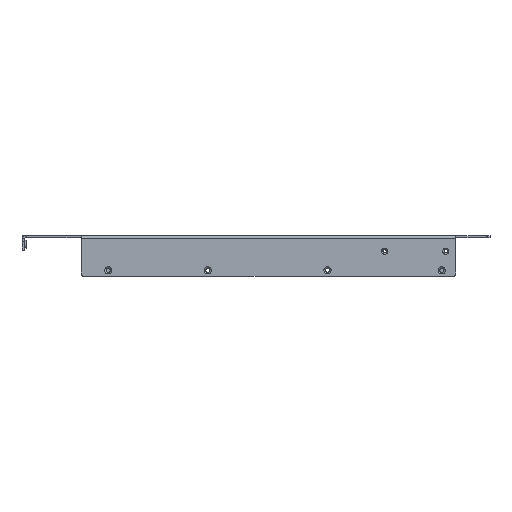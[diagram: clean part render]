
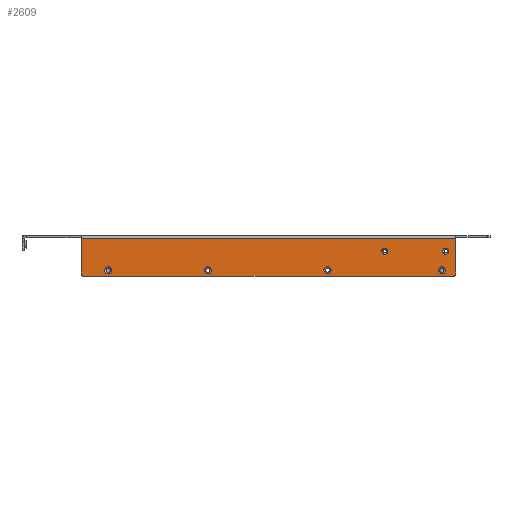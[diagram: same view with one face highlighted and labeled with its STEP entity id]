
A CAD part, front view. The second image highlights one B-rep face of the part: STEP entity #2609.
In plain terms, the highlighted planar face has unit normal (0, -1, 0).
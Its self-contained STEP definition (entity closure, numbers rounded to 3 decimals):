
#251=FACE_BOUND('',#659,.T.);
#252=FACE_BOUND('',#660,.T.);
#253=FACE_BOUND('',#661,.T.);
#254=FACE_BOUND('',#662,.T.);
#255=FACE_BOUND('',#663,.T.);
#256=FACE_BOUND('',#664,.T.);
#301=PLANE('',#2871);
#484=FACE_OUTER_BOUND('',#658,.T.);
#658=EDGE_LOOP('',(#2330,#2331,#2332,#2333,#2334,#2335));
#659=EDGE_LOOP('',(#2336));
#660=EDGE_LOOP('',(#2337));
#661=EDGE_LOOP('',(#2338));
#662=EDGE_LOOP('',(#2339));
#663=EDGE_LOOP('',(#2340));
#664=EDGE_LOOP('',(#2341));
#865=LINE('',#4162,#1083);
#871=LINE('',#4190,#1089);
#896=LINE('',#4283,#1114);
#897=LINE('',#4287,#1115);
#1083=VECTOR('',#3369,10.);
#1089=VECTOR('',#3397,10.);
#1114=VECTOR('',#3518,10.);
#1115=VECTOR('',#3525,10.);
#1211=CIRCLE('',#2802,2.);
#1220=CIRCLE('',#2814,2.);
#1225=CIRCLE('',#2825,2.6);
#1226=CIRCLE('',#2827,2.6);
#1235=CIRCLE('',#2845,2.95);
#1236=CIRCLE('',#2847,2.95);
#1237=CIRCLE('',#2849,2.95);
#1238=CIRCLE('',#2851,2.95);
#1433=VERTEX_POINT('',#4149);
#1434=VERTEX_POINT('',#4150);
#1438=VERTEX_POINT('',#4160);
#1448=VERTEX_POINT('',#4184);
#1449=VERTEX_POINT('',#4188);
#1454=VERTEX_POINT('',#4208);
#1455=VERTEX_POINT('',#4212);
#1464=VERTEX_POINT('',#4248);
#1465=VERTEX_POINT('',#4252);
#1466=VERTEX_POINT('',#4256);
#1467=VERTEX_POINT('',#4260);
#1469=VERTEX_POINT('',#4282);
#1700=EDGE_CURVE('',#1433,#1434,#1211,.T.);
#1706=EDGE_CURVE('',#1438,#1433,#865,.T.);
#1717=EDGE_CURVE('',#1448,#1438,#1220,.T.);
#1720=EDGE_CURVE('',#1449,#1448,#871,.T.);
#1729=EDGE_CURVE('',#1454,#1454,#1225,.T.);
#1731=EDGE_CURVE('',#1455,#1455,#1226,.T.);
#1749=EDGE_CURVE('',#1464,#1464,#1235,.T.);
#1751=EDGE_CURVE('',#1465,#1465,#1236,.T.);
#1753=EDGE_CURVE('',#1466,#1466,#1237,.T.);
#1755=EDGE_CURVE('',#1467,#1467,#1238,.T.);
#1767=EDGE_CURVE('',#1449,#1469,#896,.T.);
#1770=EDGE_CURVE('',#1434,#1469,#897,.T.);
#2330=ORIENTED_EDGE('',*,*,#1700,.F.);
#2331=ORIENTED_EDGE('',*,*,#1706,.F.);
#2332=ORIENTED_EDGE('',*,*,#1717,.F.);
#2333=ORIENTED_EDGE('',*,*,#1720,.F.);
#2334=ORIENTED_EDGE('',*,*,#1767,.T.);
#2335=ORIENTED_EDGE('',*,*,#1770,.F.);
#2336=ORIENTED_EDGE('',*,*,#1729,.T.);
#2337=ORIENTED_EDGE('',*,*,#1731,.T.);
#2338=ORIENTED_EDGE('',*,*,#1749,.T.);
#2339=ORIENTED_EDGE('',*,*,#1751,.T.);
#2340=ORIENTED_EDGE('',*,*,#1753,.T.);
#2341=ORIENTED_EDGE('',*,*,#1755,.T.);
#2609=ADVANCED_FACE('',(#484,#251,#252,#253,#254,#255,#256),#301,.T.);
#2802=AXIS2_PLACEMENT_3D('',#4151,#3359,#3360);
#2814=AXIS2_PLACEMENT_3D('',#4185,#3391,#3392);
#2825=AXIS2_PLACEMENT_3D('',#4209,#3420,#3421);
#2827=AXIS2_PLACEMENT_3D('',#4213,#3425,#3426);
#2845=AXIS2_PLACEMENT_3D('',#4249,#3470,#3471);
#2847=AXIS2_PLACEMENT_3D('',#4253,#3475,#3476);
#2849=AXIS2_PLACEMENT_3D('',#4257,#3480,#3481);
#2851=AXIS2_PLACEMENT_3D('',#4261,#3485,#3486);
#2871=AXIS2_PLACEMENT_3D('',#4295,#3537,#3538);
#3359=DIRECTION('center_axis',(0.,1.,0.));
#3360=DIRECTION('ref_axis',(-0.707,0.,-0.707));
#3369=DIRECTION('',(-1.,0.,0.));
#3391=DIRECTION('center_axis',(0.,1.,0.));
#3392=DIRECTION('ref_axis',(0.707,0.,-0.707));
#3397=DIRECTION('',(0.,0.,-1.));
#3420=DIRECTION('center_axis',(0.,1.,0.));
#3421=DIRECTION('ref_axis',(1.,0.,0.));
#3425=DIRECTION('center_axis',(0.,1.,0.));
#3426=DIRECTION('ref_axis',(1.,0.,0.));
#3470=DIRECTION('center_axis',(0.,1.,0.));
#3471=DIRECTION('ref_axis',(1.,0.,0.));
#3475=DIRECTION('center_axis',(0.,1.,0.));
#3476=DIRECTION('ref_axis',(1.,0.,0.));
#3480=DIRECTION('center_axis',(0.,1.,0.));
#3481=DIRECTION('ref_axis',(1.,0.,0.));
#3485=DIRECTION('center_axis',(0.,1.,0.));
#3486=DIRECTION('ref_axis',(1.,0.,0.));
#3518=DIRECTION('',(-1.,0.,0.));
#3525=DIRECTION('',(0.,0.,1.));
#3537=DIRECTION('center_axis',(0.,-1.,0.));
#3538=DIRECTION('ref_axis',(1.,0.,0.));
#4149=CARTESIAN_POINT('',(-141.25,-63.2,-33.5));
#4150=CARTESIAN_POINT('',(-143.25,-63.2,-31.5));
#4151=CARTESIAN_POINT('Origin',(-141.25,-63.2,-31.5));
#4160=CARTESIAN_POINT('',(161.25,-63.2,-33.5));
#4162=CARTESIAN_POINT('',(163.25,-63.2,-33.5));
#4184=CARTESIAN_POINT('',(163.25,-63.2,-31.5));
#4185=CARTESIAN_POINT('Origin',(161.25,-63.2,-31.5));
#4188=CARTESIAN_POINT('',(163.25,-63.2,-2.5));
#4190=CARTESIAN_POINT('',(163.25,-63.2,-2.5));
#4208=CARTESIAN_POINT('',(102.45,-63.2,-12.85));
#4209=CARTESIAN_POINT('Origin',(105.05,-63.2,-12.85));
#4212=CARTESIAN_POINT('',(152.45,-63.2,-12.85));
#4213=CARTESIAN_POINT('Origin',(155.05,-63.2,-12.85));
#4248=CARTESIAN_POINT('',(148.8,-63.2,-28.5));
#4249=CARTESIAN_POINT('Origin',(151.75,-63.2,-28.5));
#4252=CARTESIAN_POINT('',(-42.7,-63.2,-28.5));
#4253=CARTESIAN_POINT('Origin',(-39.75,-63.2,-28.5));
#4256=CARTESIAN_POINT('',(55.3,-63.2,-28.5));
#4257=CARTESIAN_POINT('Origin',(58.25,-63.2,-28.5));
#4260=CARTESIAN_POINT('',(-124.1,-63.2,-28.5));
#4261=CARTESIAN_POINT('Origin',(-121.15,-63.2,-28.5));
#4282=CARTESIAN_POINT('',(-143.25,-63.2,-2.5));
#4283=CARTESIAN_POINT('',(10.,-63.2,-2.5));
#4287=CARTESIAN_POINT('',(-143.25,-63.2,-0.332));
#4295=CARTESIAN_POINT('Origin',(10.,-63.2,-16.916));
